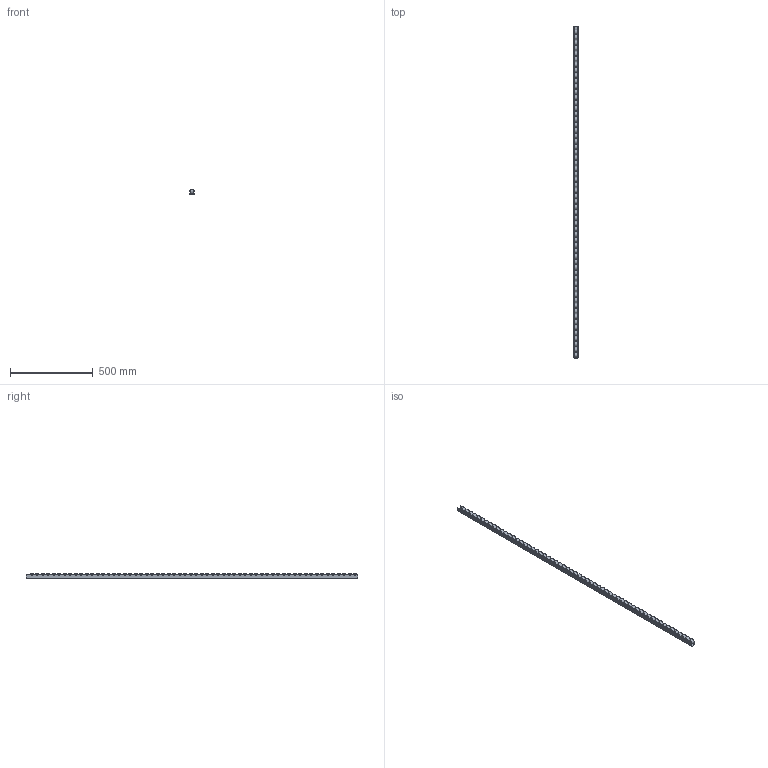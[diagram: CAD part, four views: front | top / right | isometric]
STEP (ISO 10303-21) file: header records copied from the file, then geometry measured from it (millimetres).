
FILE_DESCRIPTION(/* description */ ('Unknown'),/* implementation_level */ '2;1');
FILE_NAME(/* name */ 'Listwa T100P',/* time_stamp */ '2024-12-19T10:54:39+01:00',/* author */ ('Unknown'),/* organization */ ('Unknown'),/* preprocessor_version */ 'ST-DEVELOPER v18.104',/* originating_system */ 'Solid Edge',/* authorisation */ 'Unknown');
FILE_SCHEMA (('AUTOMOTIVE_DESIGN {1 0 10303 214 3 1 1}'));
Length unit declared in the file: millimetre
Products named in the file (4): Listwa T100P; Ceownik T100_33; Rolka T 100P; Nit.
Assembly tree (121 placements, depth 2):
  Listwa T100P
    Ceownik T100_33
    Rolka T 100P  x60
    Nit.  x60
Bounding box: 30 x 2000 x 34 mm (x, y, z)
Volume: 967528.9 mm3; surface area: 537441.9 mm2
Topology: 121 solids, 121 shells, 1365 faces, 2532 edges, 1649 vertices
Faces by surface type: cylinder 635, plane 490, cone 120, torus 120
Full cylindrical faces by diameter (mm): 2 x60, 4.2 x31, 5 x60, 5.2 x180, 6 x120, 10 x120, 28 x60
Entity records: 7003 total; most frequent: DIRECTION 1300, CARTESIAN_POINT 1009, ORIENTED_EDGE 714, EDGE_LOOP 656, FACE_BOUND 656, AXIS2_PLACEMENT_3D 636, EDGE_CURVE 357, VERTEX_POINT 345
